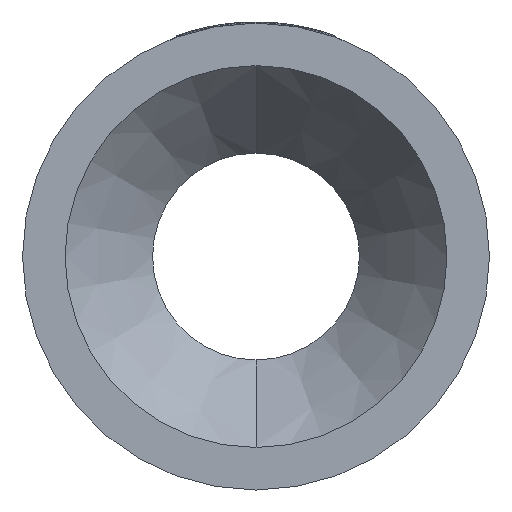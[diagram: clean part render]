
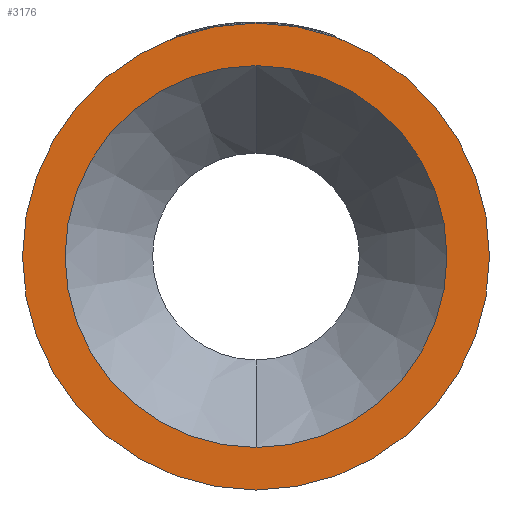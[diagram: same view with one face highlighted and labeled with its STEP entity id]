
A CAD part, left-side view. The second image highlights one B-rep face of the part: STEP entity #3176.
In plain terms, the highlighted planar face has unit normal (-1, 0, 0).
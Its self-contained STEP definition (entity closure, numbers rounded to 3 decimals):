
#379 = ORIENTED_EDGE ( 'NONE', *, *, #3313, .F. ) ;
#419 = FACE_OUTER_BOUND ( 'NONE', #2170, .T. ) ;
#575 = CARTESIAN_POINT ( 'NONE',  ( 0., 0., 81.8 ) ) ;
#592 = VERTEX_POINT ( 'NONE', #1275 ) ;
#603 = ORIENTED_EDGE ( 'NONE', *, *, #2219, .F. ) ;
#627 = AXIS2_PLACEMENT_3D ( 'NONE', #2215, #2133, #2004 ) ;
#692 = CARTESIAN_POINT ( 'NONE',  ( 0., 0., -81.8 ) ) ;
#700 = DIRECTION ( 'NONE',  ( 0., 0., -1. ) ) ;
#708 = DIRECTION ( 'NONE',  ( 1., 0., 0. ) ) ;
#719 = CARTESIAN_POINT ( 'NONE',  ( 0., 81.8, 0. ) ) ;
#743 = CIRCLE ( 'NONE', #627, 81.8 ) ;
#1221 = ORIENTED_EDGE ( 'NONE', *, *, #3010, .T. ) ;
#1234 = DIRECTION ( 'NONE',  ( 0., 0., 1. ) ) ;
#1242 = DIRECTION ( 'NONE',  ( -1., 0., 0. ) ) ;
#1248 = CARTESIAN_POINT ( 'NONE',  ( 0., 0., 0. ) ) ;
#1275 = CARTESIAN_POINT ( 'NONE',  ( 0., 0., -100. ) ) ;
#1278 = FACE_BOUND ( 'NONE', #3081, .T. ) ;
#1363 = CARTESIAN_POINT ( 'NONE',  ( 0., 0., 100. ) ) ;
#1434 = PLANE ( 'NONE',  #1580 ) ;
#1523 = AXIS2_PLACEMENT_3D ( 'NONE', #1248, #1242, #1234 ) ;
#1580 = AXIS2_PLACEMENT_3D ( 'NONE', #719, #708, #700 ) ;
#1678 = CIRCLE ( 'NONE', #1523, 81.8 ) ;
#1696 = DIRECTION ( 'NONE',  ( 0., 0., 1. ) ) ;
#1708 = DIRECTION ( 'NONE',  ( -1., 0., 0. ) ) ;
#1763 = DIRECTION ( 'NONE',  ( 0., 0., 1. ) ) ;
#1772 = DIRECTION ( 'NONE',  ( -1., 0., 0. ) ) ;
#1777 = CARTESIAN_POINT ( 'NONE',  ( 0., 0., 0. ) ) ;
#1832 = AXIS2_PLACEMENT_3D ( 'NONE', #2020, #1708, #1696 ) ;
#1873 = AXIS2_PLACEMENT_3D ( 'NONE', #1777, #1772, #1763 ) ;
#2004 = DIRECTION ( 'NONE',  ( 0., 0., 1. ) ) ;
#2020 = CARTESIAN_POINT ( 'NONE',  ( 0., 0., 0. ) ) ;
#2133 = DIRECTION ( 'NONE',  ( -1., 0., 0. ) ) ;
#2170 = EDGE_LOOP ( 'NONE', ( #1221, #2327 ) ) ;
#2215 = CARTESIAN_POINT ( 'NONE',  ( 0., 0., 0. ) ) ;
#2219 = EDGE_CURVE ( 'NONE', #2722, #3469, #743, .T. ) ;
#2327 = ORIENTED_EDGE ( 'NONE', *, *, #3294, .T. ) ;
#2645 = VERTEX_POINT ( 'NONE', #1363 ) ;
#2722 = VERTEX_POINT ( 'NONE', #692 ) ;
#3010 = EDGE_CURVE ( 'NONE', #2645, #592, #3405, .T. ) ;
#3081 = EDGE_LOOP ( 'NONE', ( #379, #603 ) ) ;
#3176 = ADVANCED_FACE ( 'NONE', ( #1278, #419 ), #1434, .F. ) ;
#3294 = EDGE_CURVE ( 'NONE', #592, #2645, #3551, .T. ) ;
#3313 = EDGE_CURVE ( 'NONE', #3469, #2722, #1678, .T. ) ;
#3405 = CIRCLE ( 'NONE', #1873, 100. ) ;
#3469 = VERTEX_POINT ( 'NONE', #575 ) ;
#3551 = CIRCLE ( 'NONE', #1832, 100. ) ;
